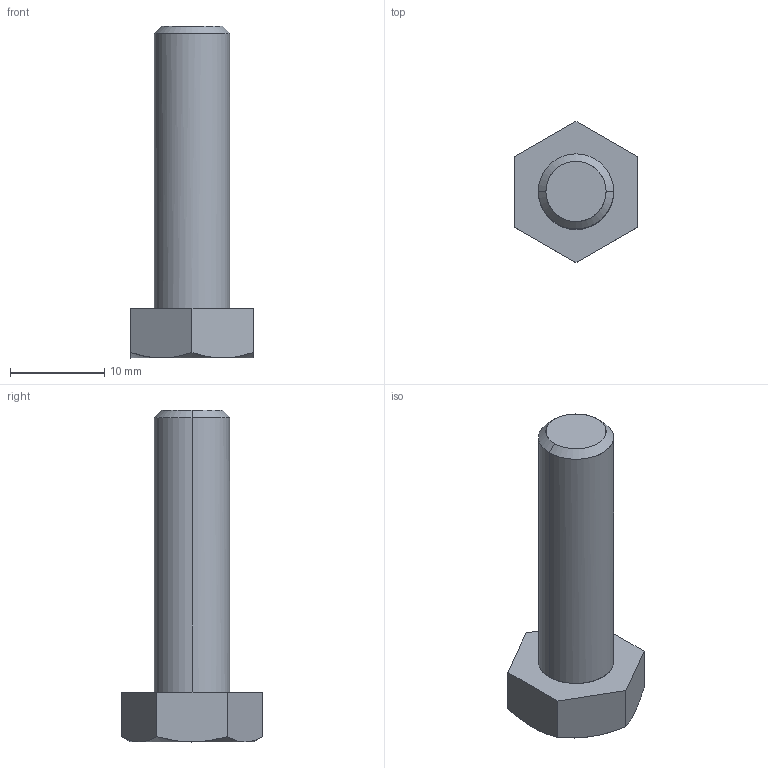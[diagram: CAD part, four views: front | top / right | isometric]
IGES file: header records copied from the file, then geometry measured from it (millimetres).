
Start section: START RECORD GO HERE.
Global section: file name: VisH82.igs; native system: IBM CATIA IGES - CATIA Version 5 Release 18 ; preprocessor: CATIA Version 5 Release 18 ; author: Propriétaire; organization: FUJITSU-79916BB; date: 20090111.192137; units: millimetre
Bounding box: 13 x 15.01 x 35.3 mm (x, y, z)
Surface area: 1265.9 mm2 (no closed solid volume)
Topology: 0 solids, 0 shells, 19 faces, 80 edges, 80 vertices
Faces by surface type: revolution 10, plane 9
